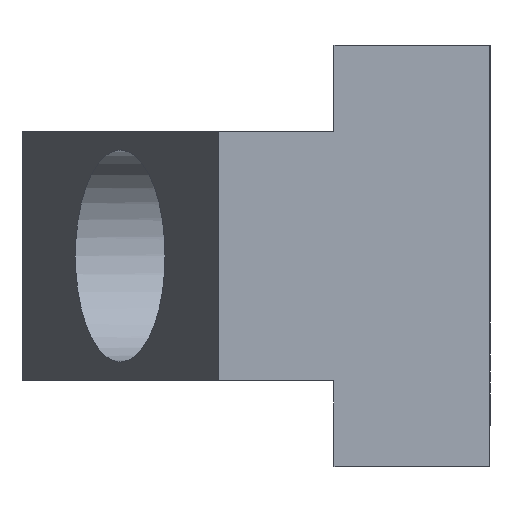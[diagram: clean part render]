
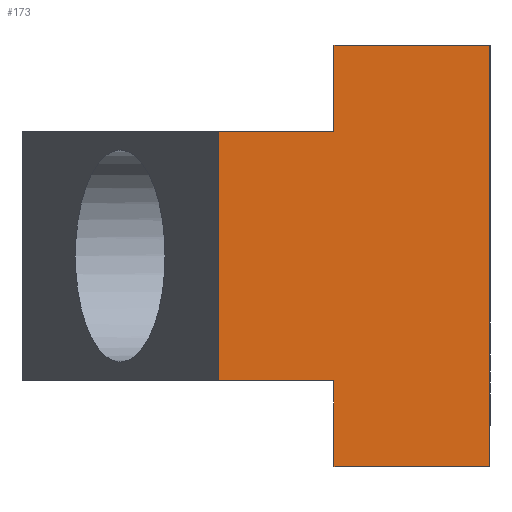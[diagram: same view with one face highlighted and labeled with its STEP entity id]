
A CAD part, left-side view. The second image highlights one B-rep face of the part: STEP entity #173.
In plain terms, the highlighted planar face has unit normal (-1, 0, 0).
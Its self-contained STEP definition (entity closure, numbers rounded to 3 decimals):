
#7 = ORIENTED_EDGE ( 'NONE', *, *, #315, .F. ) ;
#14 = CARTESIAN_POINT ( 'NONE',  ( -21., 8.705, -4. ) ) ;
#22 = CARTESIAN_POINT ( 'NONE',  ( -21., 15., 4. ) ) ;
#40 = VERTEX_POINT ( 'NONE', #335 ) ;
#43 = LINE ( 'NONE', #123, #305 ) ;
#46 = DIRECTION ( 'NONE',  ( 0., 1., 0. ) ) ;
#47 = ORIENTED_EDGE ( 'NONE', *, *, #585, .F. ) ;
#54 = EDGE_LOOP ( 'NONE', ( #466, #360, #100, #7, #159, #204, #47, #502 ) ) ;
#70 = DIRECTION ( 'NONE',  ( 1., 0., 0. ) ) ;
#71 = DIRECTION ( 'NONE',  ( 0., 1., 0. ) ) ;
#72 = CARTESIAN_POINT ( 'NONE',  ( -21., 5., 6.75 ) ) ;
#76 = LINE ( 'NONE', #22, #82 ) ;
#82 = VECTOR ( 'NONE', #430, 1000. ) ;
#91 = CARTESIAN_POINT ( 'NONE',  ( -21., 8.705, 4. ) ) ;
#95 = VECTOR ( 'NONE', #431, 1000. ) ;
#100 = ORIENTED_EDGE ( 'NONE', *, *, #517, .F. ) ;
#117 = DIRECTION ( 'NONE',  ( 0., 0., -1. ) ) ;
#123 = CARTESIAN_POINT ( 'NONE',  ( -21., 8.705, 0. ) ) ;
#127 = VERTEX_POINT ( 'NONE', #304 ) ;
#132 = CARTESIAN_POINT ( 'NONE',  ( -21., 0., -6.75 ) ) ;
#138 = CARTESIAN_POINT ( 'NONE',  ( -21., 5., 4. ) ) ;
#147 = CARTESIAN_POINT ( 'NONE',  ( -21., 5., -4. ) ) ;
#159 = ORIENTED_EDGE ( 'NONE', *, *, #225, .F. ) ;
#162 = PLANE ( 'NONE',  #448 ) ;
#172 = DIRECTION ( 'NONE',  ( 0., 0., -1. ) ) ;
#173 = ADVANCED_FACE ( 'NONE', ( #483 ), #162, .F. ) ;
#174 = VECTOR ( 'NONE', #327, 1000. ) ;
#175 = VERTEX_POINT ( 'NONE', #486 ) ;
#180 = VERTEX_POINT ( 'NONE', #432 ) ;
#204 = ORIENTED_EDGE ( 'NONE', *, *, #401, .F. ) ;
#206 = CARTESIAN_POINT ( 'NONE',  ( -21., 5., -6.75 ) ) ;
#209 = LINE ( 'NONE', #259, #485 ) ;
#215 = EDGE_CURVE ( 'NONE', #388, #40, #76, .T. ) ;
#225 = EDGE_CURVE ( 'NONE', #319, #581, #209, .T. ) ;
#233 = LINE ( 'NONE', #138, #371 ) ;
#259 = CARTESIAN_POINT ( 'NONE',  ( -21., 0., -6.75 ) ) ;
#265 = LINE ( 'NONE', #288, #174 ) ;
#288 = CARTESIAN_POINT ( 'NONE',  ( -21., 0., 6.75 ) ) ;
#299 = EDGE_CURVE ( 'NONE', #388, #407, #43, .T. ) ;
#302 = CARTESIAN_POINT ( 'NONE',  ( -21., 0., 0. ) ) ;
#304 = CARTESIAN_POINT ( 'NONE',  ( -21., 0., 6.75 ) ) ;
#305 = VECTOR ( 'NONE', #172, 1000. ) ;
#315 = EDGE_CURVE ( 'NONE', #581, #180, #356, .T. ) ;
#319 = VERTEX_POINT ( 'NONE', #132 ) ;
#327 = DIRECTION ( 'NONE',  ( 0., 0., -1. ) ) ;
#335 = CARTESIAN_POINT ( 'NONE',  ( -21., 5., 4. ) ) ;
#345 = VECTOR ( 'NONE', #447, 1000. ) ;
#356 = LINE ( 'NONE', #400, #345 ) ;
#360 = ORIENTED_EDGE ( 'NONE', *, *, #299, .T. ) ;
#371 = VECTOR ( 'NONE', #408, 1000. ) ;
#388 = VERTEX_POINT ( 'NONE', #91 ) ;
#400 = CARTESIAN_POINT ( 'NONE',  ( -21., 5., -6.75 ) ) ;
#401 = EDGE_CURVE ( 'NONE', #127, #319, #265, .T. ) ;
#407 = VERTEX_POINT ( 'NONE', #14 ) ;
#408 = DIRECTION ( 'NONE',  ( 0., 0., 1. ) ) ;
#429 = LINE ( 'NONE', #72, #95 ) ;
#430 = DIRECTION ( 'NONE',  ( 0., -1., 0. ) ) ;
#431 = DIRECTION ( 'NONE',  ( 0., -1., 0. ) ) ;
#432 = CARTESIAN_POINT ( 'NONE',  ( -21., 5., -4. ) ) ;
#447 = DIRECTION ( 'NONE',  ( 0., 0., 1. ) ) ;
#448 = AXIS2_PLACEMENT_3D ( 'NONE', #302, #70, #117 ) ;
#456 = LINE ( 'NONE', #147, #468 ) ;
#466 = ORIENTED_EDGE ( 'NONE', *, *, #215, .F. ) ;
#468 = VECTOR ( 'NONE', #46, 1000. ) ;
#483 = FACE_OUTER_BOUND ( 'NONE', #54, .T. ) ;
#485 = VECTOR ( 'NONE', #71, 1000. ) ;
#486 = CARTESIAN_POINT ( 'NONE',  ( -21., 5., 6.75 ) ) ;
#502 = ORIENTED_EDGE ( 'NONE', *, *, #536, .F. ) ;
#517 = EDGE_CURVE ( 'NONE', #180, #407, #456, .T. ) ;
#536 = EDGE_CURVE ( 'NONE', #40, #175, #233, .T. ) ;
#581 = VERTEX_POINT ( 'NONE', #206 ) ;
#585 = EDGE_CURVE ( 'NONE', #175, #127, #429, .T. ) ;
